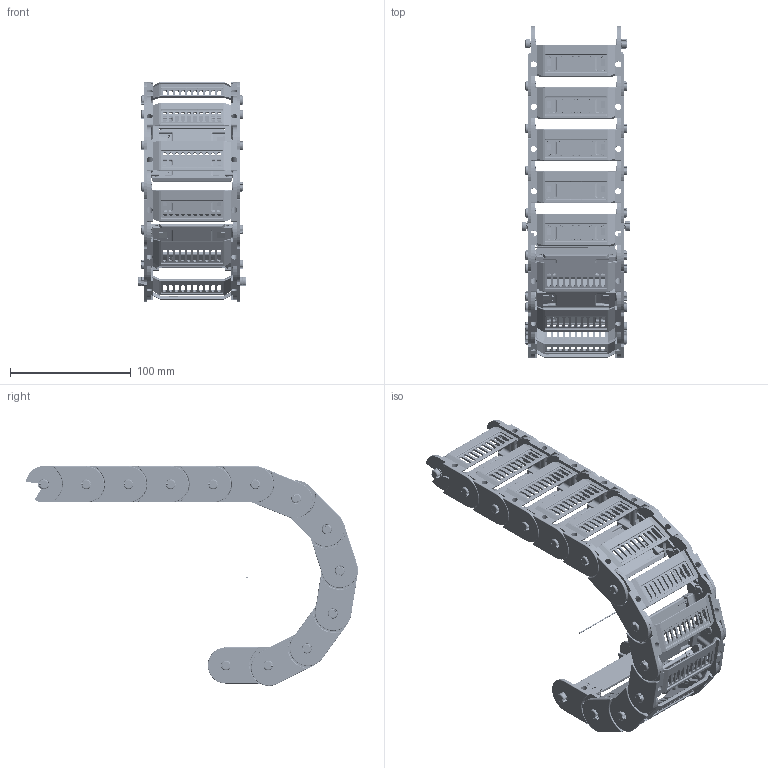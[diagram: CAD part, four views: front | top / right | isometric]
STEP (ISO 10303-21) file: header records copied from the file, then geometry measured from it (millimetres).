
FILE_DESCRIPTION((''),'2;1');
FILE_NAME('C:\Uebbing\PARAMETERKETTEN\KOLIBRI\Kol_30_080_0\KOLIBRI 30_080_0_R75_ELTOLA.stp','2012-03-05T10:21:22',('Uebbing'),(''),'Autodesk Inventor 10','Autodesk Inventor 10','');
FILE_SCHEMA(('AUTOMOTIVE_DESIGN { 1 0 10303 214 1 1 1 1 }'));
Length unit declared in the file: millimetre
Products named in the file (6): KOLIBRI 30_080_0_ELTOLA_PARAMETRISCH; Achse; Kol_30_080_0 ELTOLA_Glied; Kol 30_080_0 Lasche ELTOLA; Kol 30_080_0 Klappsteg; ELTOLA30
Assembly tree (19 placements, depth 3):
  KOLIBRI 30_080_0_ELTOLA_PARAMETRISCH
    Achse
    Kol_30_080_0 ELTOLA_Glied  x12
      Kol 30_080_0 Lasche ELTOLA
      Kol 30_080_0 Klappsteg
      ELTOLA30
    ELTOLA30  x2
Bounding box: 90 x 274.67 x 181.89 mm (x, y, z)
Volume: 224636.5 mm3; surface area: 213257.7 mm2
Topology: 51 solids, 51 shells, 14423 faces, 39428 edges, 25335 vertices
Faces by surface type: plane 5798, bspline 4868, cylinder 2897, torus 608, sphere 132, cone 120
Full cylindrical faces by diameter (mm): 1 x1, 1.166 x12, 2.048 x12, 2.8 x72, 5.1 x12
Entity records: 43211 total; most frequent: CARTESIAN_POINT 15902, ORIENTED_EDGE 6136, DIRECTION 4913, EDGE_CURVE 3068, VERTEX_POINT 1989, VECTOR 1797, LINE 1797, AXIS2_PLACEMENT_3D 1558
